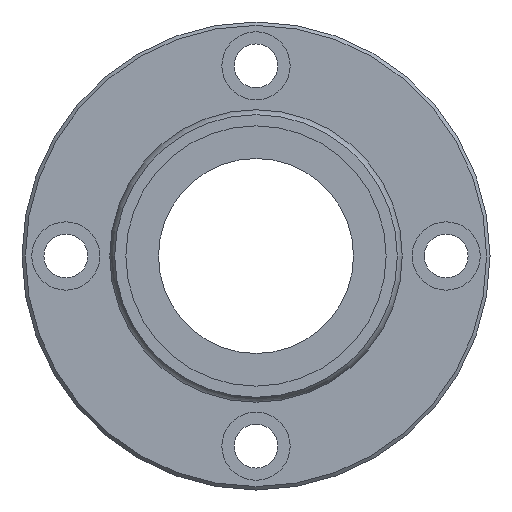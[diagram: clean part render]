
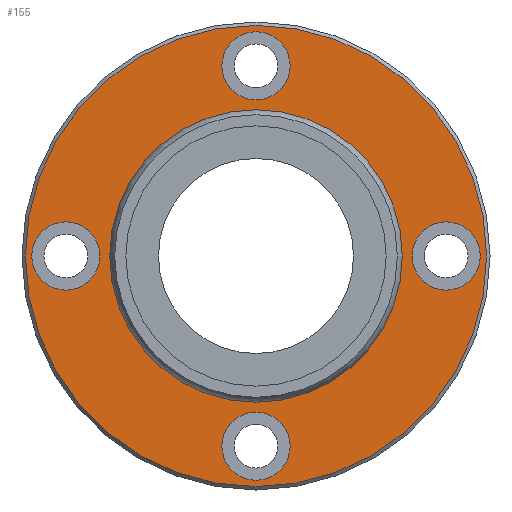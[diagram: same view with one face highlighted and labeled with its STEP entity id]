
A CAD part, left-side view. The second image highlights one B-rep face of the part: STEP entity #155.
In plain terms, the highlighted planar face has unit normal (-1, 0, 0).
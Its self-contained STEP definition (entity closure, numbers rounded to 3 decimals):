
#60=CARTESIAN_POINT('',(70.0,0.,47.3));
#61=VERTEX_POINT('',#60);
#62=CARTESIAN_POINT('',(70.0,0.0,0.0));
#63=DIRECTION('',(1.0,0.0,0.0));
#64=DIRECTION('',(0.0,0.0,-1.0));
#65=AXIS2_PLACEMENT_3D('',#62,#63,#64);
#66=CIRCLE('',#65,47.3);
#67=EDGE_CURVE('',#61,#61,#66,.T.);
#92=CARTESIAN_POINT('',(70.0,0.0,38.834));
#93=DIRECTION('',(-1.0,0.0,0.0));
#94=DIRECTION('',(0.0,0.0,1.0));
#95=AXIS2_PLACEMENT_3D('',#92,#93,#94);
#96=PLANE('',#95);
#97=ORIENTED_EDGE('',*,*,#67,.F.);
#98=EDGE_LOOP('',(#97));
#99=FACE_OUTER_BOUND('',#98,.T.);
#100=CARTESIAN_POINT('',(70.,0.0,29.668));
#101=VERTEX_POINT('',#100);
#102=CARTESIAN_POINT('',(70.0,0.0,0.0));
#103=DIRECTION('',(-1.0,0.0,0.0));
#104=DIRECTION('',(0.0,0.0,1.0));
#105=AXIS2_PLACEMENT_3D('',#102,#103,#104);
#106=CIRCLE('',#105,29.668);
#107=EDGE_CURVE('',#101,#101,#106,.T.);
#108=ORIENTED_EDGE('',*,*,#107,.F.);
#109=EDGE_LOOP('',(#108));
#110=FACE_BOUND('',#109,.T.);
#111=CARTESIAN_POINT('',(70.0,-32.0,0.));
#112=VERTEX_POINT('',#111);
#113=CARTESIAN_POINT('',(70.0,-39.0,0.));
#114=DIRECTION('',(1.0,0.0,0.0));
#115=DIRECTION('',(0.0,1.0,0.0));
#116=AXIS2_PLACEMENT_3D('',#113,#114,#115);
#117=CIRCLE('',#116,7.);
#118=EDGE_CURVE('',#112,#112,#117,.T.);
#119=ORIENTED_EDGE('',*,*,#118,.T.);
#120=EDGE_LOOP('',(#119));
#121=FACE_BOUND('',#120,.T.);
#122=CARTESIAN_POINT('',(70.0,46.,0.));
#123=VERTEX_POINT('',#122);
#124=CARTESIAN_POINT('',(70.0,39.0,0.));
#125=DIRECTION('',(1.0,0.0,0.0));
#126=DIRECTION('',(0.0,1.0,0.0));
#127=AXIS2_PLACEMENT_3D('',#124,#125,#126);
#128=CIRCLE('',#127,7.);
#129=EDGE_CURVE('',#123,#123,#128,.T.);
#130=ORIENTED_EDGE('',*,*,#129,.T.);
#131=EDGE_LOOP('',(#130));
#132=FACE_BOUND('',#131,.T.);
#133=CARTESIAN_POINT('',(70.0,7.,39.0));
#134=VERTEX_POINT('',#133);
#135=CARTESIAN_POINT('',(70.0,0.,39.0));
#136=DIRECTION('',(1.0,0.0,0.0));
#137=DIRECTION('',(0.0,1.0,0.0));
#138=AXIS2_PLACEMENT_3D('',#135,#136,#137);
#139=CIRCLE('',#138,7.);
#140=EDGE_CURVE('',#134,#134,#139,.T.);
#141=ORIENTED_EDGE('',*,*,#140,.T.);
#142=EDGE_LOOP('',(#141));
#143=FACE_BOUND('',#142,.T.);
#144=CARTESIAN_POINT('',(70.0,7.,-39.0));
#145=VERTEX_POINT('',#144);
#146=CARTESIAN_POINT('',(70.0,0.,-39.0));
#147=DIRECTION('',(1.0,0.0,0.0));
#148=DIRECTION('',(0.0,1.0,0.0));
#149=AXIS2_PLACEMENT_3D('',#146,#147,#148);
#150=CIRCLE('',#149,7.);
#151=EDGE_CURVE('',#145,#145,#150,.T.);
#152=ORIENTED_EDGE('',*,*,#151,.T.);
#153=EDGE_LOOP('',(#152));
#154=FACE_BOUND('',#153,.T.);
#155=ADVANCED_FACE('',(#99,#110,#121,#132,#143,#154),#96,.T.);
